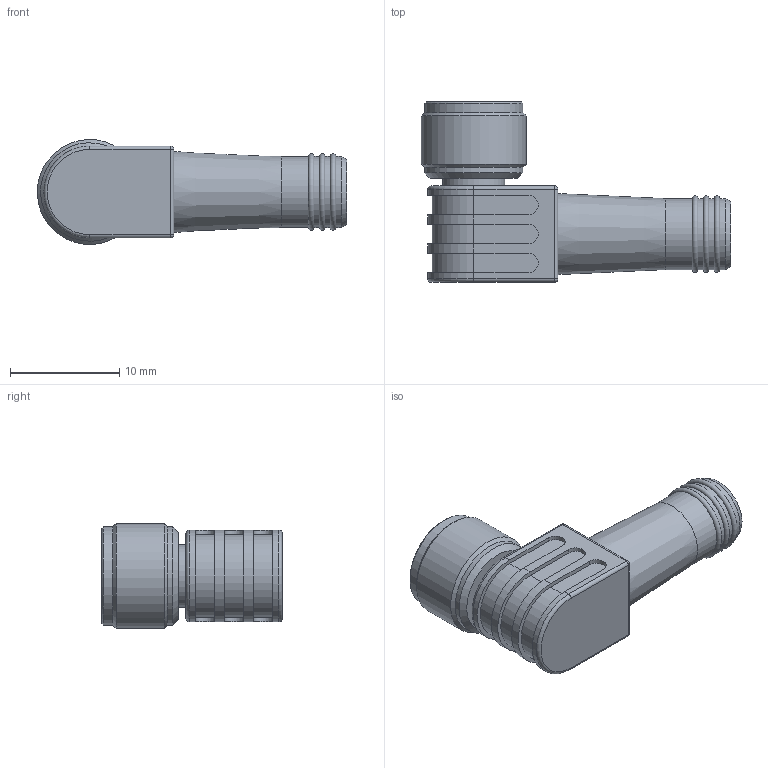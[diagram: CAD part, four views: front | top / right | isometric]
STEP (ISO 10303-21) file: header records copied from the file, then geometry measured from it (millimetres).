
FILE_DESCRIPTION(/* description */ (''),/* implementation_level */ '2;1');
FILE_NAME(/* name */ 'L:\CAD Inventor\Workspace\Catalogs\CATALOG-TURCK CONNECTORS\PKW_6M.stp',/* time_stamp */ '2022-01-20T10:27:01-06:00',/* author */ ('RSwans'),/* organization */ (''),/* preprocessor_version */ 'ST-DEVELOPER v16.5',/* originating_system */ 'Autodesk Inventor 2017',/* authorisation */ '');
FILE_SCHEMA (('AUTOMOTIVE_DESIGN { 1 0 10303 214 3 1 1 }'));
Length unit declared in the file: millimetre
Products named in the file (1): Part3
Bounding box: 28.29 x 16.5 x 9.59 mm (x, y, z)
Volume: 1687.2 mm3; surface area: 1641.8 mm2
Topology: 2 solids, 2 shells, 178 faces, 445 edges, 286 vertices
Faces by surface type: cylinder 120, plane 41, cone 7, torus 6, sphere 4
Full cylindrical faces by diameter (mm): 0.8 x6, 1.3 x6, 5.7 x1, 5.9 x1, 6.5 x4, 6.9 x1, 6.95 x1, 7.2 x1, 9 x2, 9.6 x1
Entity records: 5373 total; most frequent: DIRECTION 1004, CARTESIAN_POINT 855, ORIENTED_EDGE 796, AXIS2_PLACEMENT_3D 427, EDGE_CURVE 398, VERTEX_POINT 278, CIRCLE 248, EDGE_LOOP 234
